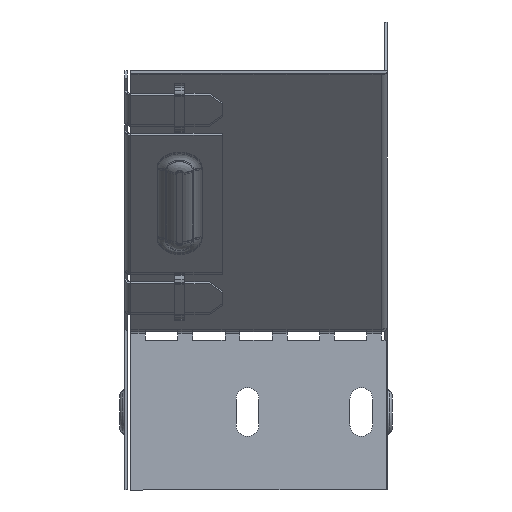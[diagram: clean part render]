
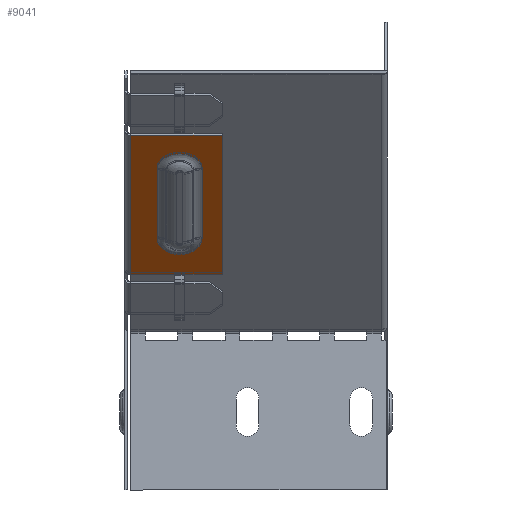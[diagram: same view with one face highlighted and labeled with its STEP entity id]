
A CAD part, left-side view. The second image highlights one B-rep face of the part: STEP entity #9041.
In plain terms, the highlighted planar face has unit normal (-0.707, 0, -0.707).
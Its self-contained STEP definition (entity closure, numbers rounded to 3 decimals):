
#139 = CARTESIAN_POINT ( 'NONE',  ( -151.206, 70.017, -45.472 ) ) ;
#389 = ORIENTED_EDGE ( 'NONE', *, *, #10220, .F. ) ;
#506 = CIRCLE ( 'NONE', #16853, 6.917 ) ;
#862 = CARTESIAN_POINT ( 'NONE',  ( -129.993, 63.1, -66.685 ) ) ;
#1097 = CARTESIAN_POINT ( 'NONE',  ( -129.993, 70.017, -66.685 ) ) ;
#1210 = FACE_OUTER_BOUND ( 'NONE', #3177, .T. ) ;
#1568 = LINE ( 'NONE', #18640, #10023 ) ;
#1583 = CARTESIAN_POINT ( 'NONE',  ( -119.022, 78.2, -77.656 ) ) ;
#1714 = AXIS2_PLACEMENT_3D ( 'NONE', #2696, #12976, #16449 ) ;
#2542 = CARTESIAN_POINT ( 'NONE',  ( -90.837, 50., -105.841 ) ) ;
#2605 = VERTEX_POINT ( 'NONE', #1583 ) ;
#2696 = CARTESIAN_POINT ( 'NONE',  ( -151.206, 63.1, -45.472 ) ) ;
#2978 = LINE ( 'NONE', #1097, #5114 ) ;
#3160 = CARTESIAN_POINT ( 'NONE',  ( -90.837, 80., -105.841 ) ) ;
#3177 = EDGE_LOOP ( 'NONE', ( #389, #15106, #16684, #8763 ) ) ;
#3190 = VERTEX_POINT ( 'NONE', #18135 ) ;
#3307 = DIRECTION ( 'NONE',  ( 0.707, 0., -0.707 ) ) ;
#3451 = DIRECTION ( 'NONE',  ( 0.707, 0., 0.707 ) ) ;
#3990 = CARTESIAN_POINT ( 'NONE',  ( -129.993, 56.183, -66.685 ) ) ;
#5114 = VECTOR ( 'NONE', #21097, 1000. ) ;
#5576 = VERTEX_POINT ( 'NONE', #139 ) ;
#5589 = CARTESIAN_POINT ( 'NONE',  ( -129.993, 70.017, -66.685 ) ) ;
#6626 = VERTEX_POINT ( 'NONE', #21131 ) ;
#6796 = CARTESIAN_POINT ( 'NONE',  ( -151.206, 56.183, -45.472 ) ) ;
#6929 = EDGE_CURVE ( 'NONE', #20679, #3190, #1568, .T. ) ;
#7261 = DIRECTION ( 'NONE',  ( 0.707, 0., -0.707 ) ) ;
#7370 = DIRECTION ( 'NONE',  ( 0., -1., 0. ) ) ;
#7737 = VECTOR ( 'NONE', #7261, 1000. ) ;
#8046 = VECTOR ( 'NONE', #9656, 1000. ) ;
#8560 = VECTOR ( 'NONE', #17842, 1000. ) ;
#8763 = ORIENTED_EDGE ( 'NONE', *, *, #6929, .T. ) ;
#8867 = VERTEX_POINT ( 'NONE', #15889 ) ;
#9041 = ADVANCED_FACE ( 'NONE', ( #16213, #1210 ), #20078, .F. ) ;
#9097 = ORIENTED_EDGE ( 'NONE', *, *, #10917, .T. ) ;
#9137 = CARTESIAN_POINT ( 'NONE',  ( -119.022, 50., -77.656 ) ) ;
#9656 = DIRECTION ( 'NONE',  ( -0.707, 0., 0.707 ) ) ;
#10023 = VECTOR ( 'NONE', #15358, 1000. ) ;
#10220 = EDGE_CURVE ( 'NONE', #2605, #3190, #18282, .T. ) ;
#10350 = VERTEX_POINT ( 'NONE', #5589 ) ;
#10511 = EDGE_LOOP ( 'NONE', ( #9097, #17908, #20245, #14348 ) ) ;
#10557 = EDGE_CURVE ( 'NONE', #10350, #5576, #2978, .T. ) ;
#10725 = EDGE_CURVE ( 'NONE', #5576, #18470, #19612, .T. ) ;
#10817 = DIRECTION ( 'NONE',  ( 0.707, 0., 0.707 ) ) ;
#10917 = EDGE_CURVE ( 'NONE', #18470, #8867, #11648, .T. ) ;
#11648 = LINE ( 'NONE', #3990, #7737 ) ;
#12475 = LINE ( 'NONE', #9137, #17729 ) ;
#12976 = DIRECTION ( 'NONE',  ( 0.707, 0., 0.707 ) ) ;
#14348 = ORIENTED_EDGE ( 'NONE', *, *, #10725, .T. ) ;
#14617 = CARTESIAN_POINT ( 'NONE',  ( -178.087, 78.2, -18.591 ) ) ;
#15106 = ORIENTED_EDGE ( 'NONE', *, *, #18637, .T. ) ;
#15358 = DIRECTION ( 'NONE',  ( 0., 1., 0. ) ) ;
#15814 = DIRECTION ( 'NONE',  ( 0.5, -0.707, -0.5 ) ) ;
#15889 = CARTESIAN_POINT ( 'NONE',  ( -129.993, 56.183, -66.685 ) ) ;
#16092 = EDGE_CURVE ( 'NONE', #6626, #20679, #20861, .T. ) ;
#16213 = FACE_BOUND ( 'NONE', #10511, .T. ) ;
#16449 = DIRECTION ( 'NONE',  ( 0.5, -0.707, -0.5 ) ) ;
#16684 = ORIENTED_EDGE ( 'NONE', *, *, #16092, .T. ) ;
#16853 = AXIS2_PLACEMENT_3D ( 'NONE', #862, #10817, #15814 ) ;
#17729 = VECTOR ( 'NONE', #7370, 1000. ) ;
#17842 = DIRECTION ( 'NONE',  ( -0.707, 0., 0.707 ) ) ;
#17908 = ORIENTED_EDGE ( 'NONE', *, *, #20726, .T. ) ;
#18135 = CARTESIAN_POINT ( 'NONE',  ( -161.823, 78.2, -34.855 ) ) ;
#18282 = LINE ( 'NONE', #14617, #8046 ) ;
#18470 = VERTEX_POINT ( 'NONE', #6796 ) ;
#18637 = EDGE_CURVE ( 'NONE', #2605, #6626, #12475, .T. ) ;
#18640 = CARTESIAN_POINT ( 'NONE',  ( -161.823, 50., -34.855 ) ) ;
#19062 = CARTESIAN_POINT ( 'NONE',  ( -161.823, 50., -34.855 ) ) ;
#19612 = CIRCLE ( 'NONE', #1714, 6.917 ) ;
#20078 = PLANE ( 'NONE',  #20589 ) ;
#20245 = ORIENTED_EDGE ( 'NONE', *, *, #10557, .T. ) ;
#20589 = AXIS2_PLACEMENT_3D ( 'NONE', #3160, #3451, #3307 ) ;
#20679 = VERTEX_POINT ( 'NONE', #19062 ) ;
#20726 = EDGE_CURVE ( 'NONE', #8867, #10350, #506, .T. ) ;
#20861 = LINE ( 'NONE', #2542, #8560 ) ;
#21097 = DIRECTION ( 'NONE',  ( -0.707, 0., 0.707 ) ) ;
#21131 = CARTESIAN_POINT ( 'NONE',  ( -119.022, 50., -77.656 ) ) ;
